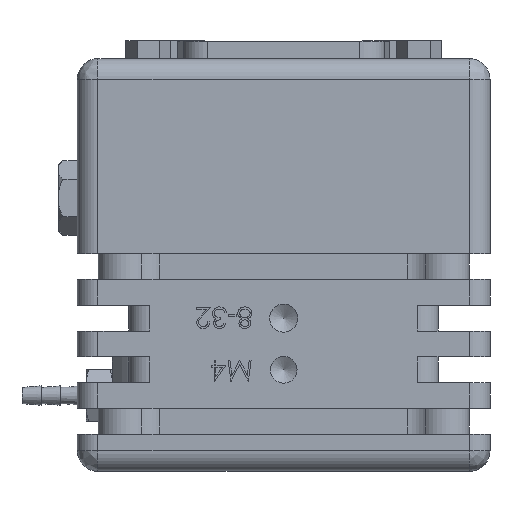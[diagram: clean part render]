
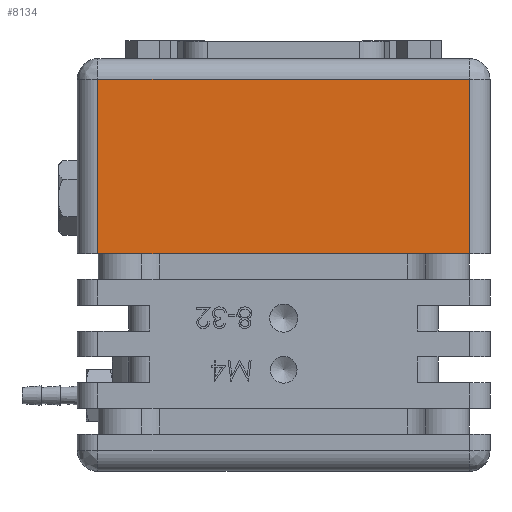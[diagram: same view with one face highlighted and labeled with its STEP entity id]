
A CAD part, front view. The second image highlights one B-rep face of the part: STEP entity #8134.
In plain terms, the highlighted planar face has unit normal (0, -1, 0).
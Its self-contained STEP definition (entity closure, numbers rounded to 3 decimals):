
#1714 = PLANE ( 'NONE',  #117311 ) ;
#5273 = FACE_OUTER_BOUND ( 'NONE', #98561, .T. ) ;
#6079 = VECTOR ( 'NONE', #99432, 1000. ) ;
#8134 = ADVANCED_FACE ( 'NONE', ( #5273 ), #1714, .F. ) ;
#9721 = DIRECTION ( 'NONE',  ( 0., 0., -1. ) ) ;
#11694 = VERTEX_POINT ( 'NONE', #20160 ) ;
#11893 = LINE ( 'NONE', #53772, #6079 ) ;
#14582 = EDGE_CURVE ( 'NONE', #26921, #99962, #51942, .T. ) ;
#16947 = CARTESIAN_POINT ( 'NONE',  ( 25.4, -25.4, -3.175 ) ) ;
#18564 = CARTESIAN_POINT ( 'NONE',  ( -22.86, -25.4, -3.175 ) ) ;
#20160 = CARTESIAN_POINT ( 'NONE',  ( -22.86, -25.4, 18.288 ) ) ;
#20236 = DIRECTION ( 'NONE',  ( 0., 0., 1. ) ) ;
#26089 = DIRECTION ( 'NONE',  ( 1., 0., 0. ) ) ;
#26921 = VERTEX_POINT ( 'NONE', #84404 ) ;
#44301 = VERTEX_POINT ( 'NONE', #110637 ) ;
#46213 = VECTOR ( 'NONE', #26089, 1000. ) ;
#49969 = EDGE_CURVE ( 'NONE', #11694, #44301, #11893, .T. ) ;
#51942 = LINE ( 'NONE', #16947, #46213 ) ;
#53772 = CARTESIAN_POINT ( 'NONE',  ( 22.86, -25.4, 18.288 ) ) ;
#54639 = DIRECTION ( 'NONE',  ( 0., 1., 0. ) ) ;
#55063 = LINE ( 'NONE', #18564, #100933 ) ;
#57895 = ORIENTED_EDGE ( 'NONE', *, *, #49969, .F. ) ;
#65887 = CARTESIAN_POINT ( 'NONE',  ( 25.4, -25.4, 20.828 ) ) ;
#72809 = EDGE_CURVE ( 'NONE', #44301, #99962, #91042, .T. ) ;
#82969 = CARTESIAN_POINT ( 'NONE',  ( 22.86, -25.4, -3.175 ) ) ;
#84404 = CARTESIAN_POINT ( 'NONE',  ( -22.86, -25.4, -3.175 ) ) ;
#85591 = ORIENTED_EDGE ( 'NONE', *, *, #72809, .F. ) ;
#87176 = ORIENTED_EDGE ( 'NONE', *, *, #91763, .F. ) ;
#87309 = ORIENTED_EDGE ( 'NONE', *, *, #14582, .T. ) ;
#88182 = VECTOR ( 'NONE', #9721, 1000. ) ;
#91042 = LINE ( 'NONE', #82969, #88182 ) ;
#91763 = EDGE_CURVE ( 'NONE', #26921, #11694, #55063, .T. ) ;
#94719 = CARTESIAN_POINT ( 'NONE',  ( 22.86, -25.4, -3.175 ) ) ;
#98561 = EDGE_LOOP ( 'NONE', ( #85591, #57895, #87176, #87309 ) ) ;
#99432 = DIRECTION ( 'NONE',  ( 1., 0., 0. ) ) ;
#99962 = VERTEX_POINT ( 'NONE', #94719 ) ;
#100933 = VECTOR ( 'NONE', #112319, 1000. ) ;
#110637 = CARTESIAN_POINT ( 'NONE',  ( 22.86, -25.4, 18.288 ) ) ;
#112319 = DIRECTION ( 'NONE',  ( 0., 0., 1. ) ) ;
#117311 = AXIS2_PLACEMENT_3D ( 'NONE', #65887, #54639, #20236 ) ;
